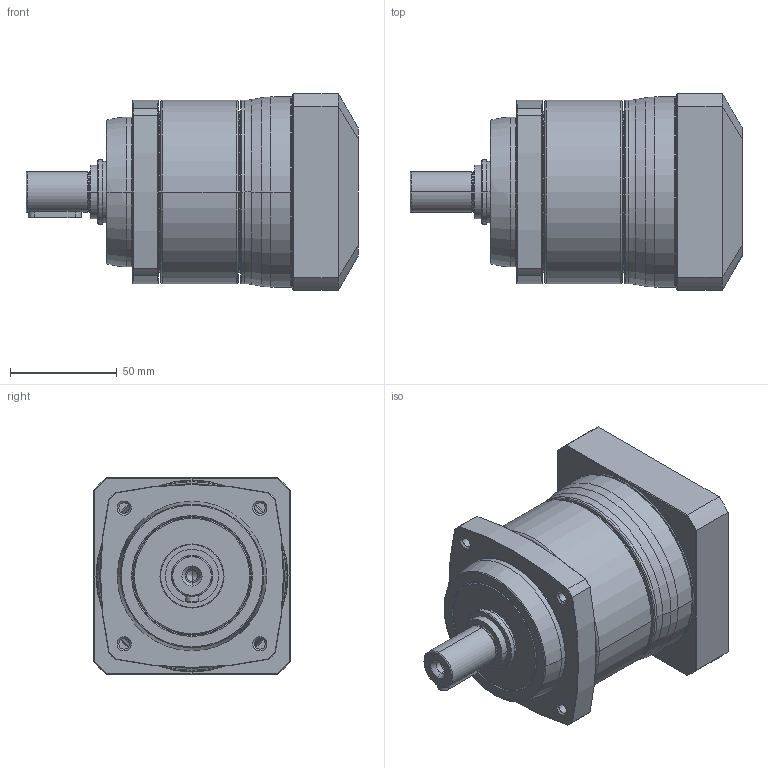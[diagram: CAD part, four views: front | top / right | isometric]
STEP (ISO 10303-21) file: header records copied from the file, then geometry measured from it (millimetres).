
FILE_DESCRIPTION((''),'2;1');
FILE_NAME('PS2-C_1ST_19-P0411400101_ASM','2016-05-19T',('d01943'),(''),'PRO/ENGINEER BY PARAMETRIC TECHNOLOGY CORPORATION, 2008410','PRO/ENGINEER BY PARAMETRIC TECHNOLOGY CORPORATION, 2008410','');
FILE_SCHEMA(('CONFIG_CONTROL_DESIGN'));
Length unit declared in the file: millimetre
Products named in the file (9): P1328310001; P0250300001; P1324300101; P0350301401; P0941301001; P0503400008; P0411400101; P1702500001; PS2-C_1ST_19-P0411400101_ASM
Assembly tree (8 placements, depth 2):
  PS2-C_1ST_19-P0411400101_ASM
    P1328310001
    P0250300001
    P1324300101
    P0350301401
    P0941301001
    P0503400008
    P0411400101
    P1702500001
Bounding box: 155.5 x 92 x 92 mm (x, y, z)
Volume: 562080 mm3; surface area: 136371.5 mm2
Topology: 8 solids, 8 shells, 478 faces, 1044 edges, 606 vertices
Faces by surface type: cone 152, cylinder 141, torus 86, plane 79, bspline 20
Entity records: 17972 total; most frequent: CARTESIAN_POINT 7203, DIRECTION 2450, ORIENTED_EDGE 2048, AXIS2_PLACEMENT_3D 1056, EDGE_CURVE 1024, VERTEX_POINT 606, CIRCLE 581, EDGE_LOOP 546
